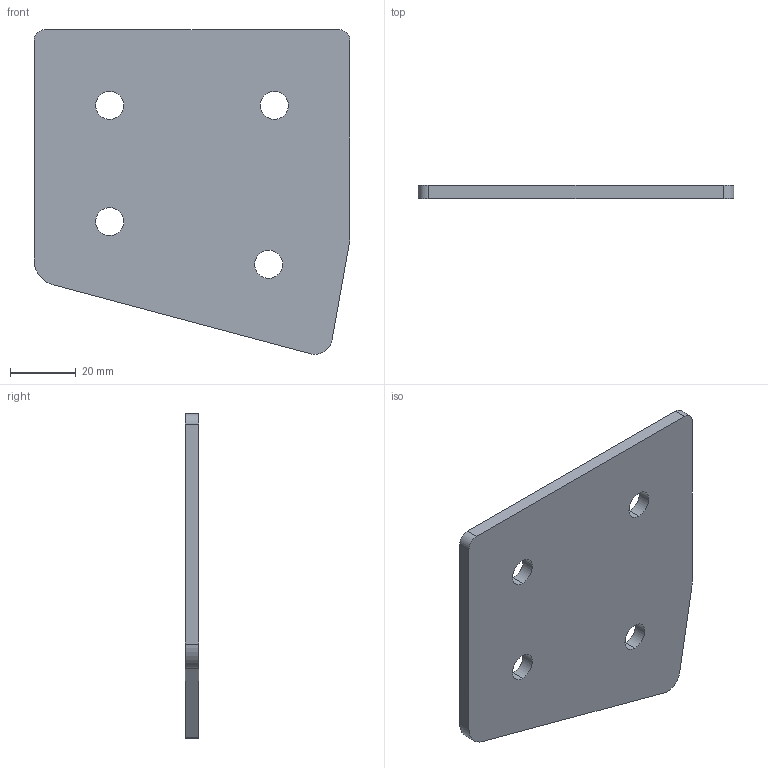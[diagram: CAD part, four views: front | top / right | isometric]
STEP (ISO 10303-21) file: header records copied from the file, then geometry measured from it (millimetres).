
FILE_DESCRIPTION (( 'STEP AP214' ), '1' );
FILE_NAME ('Ï-4-óãîë 15-50.STEP', '2017-08-16T05:31:11', ( '' ), ( '' ), 'SwSTEP 2.0', 'SolidWorks 2014', '' );
FILE_SCHEMA (( 'AUTOMOTIVE_DESIGN' ));
Length unit declared in the file: millimetre
Products named in the file (2): Ï-4-óãîë 15-50
Bounding box: 96 x 4 x 98.64 mm (x, y, z)
Volume: 32637.8 mm3; surface area: 18177.5 mm2
Topology: 1 solids, 1 shells, 20 faces, 54 edges, 36 vertices
Faces by surface type: cylinder 13, plane 7
Entity records: 929 total; most frequent: DIRECTION 124, CARTESIAN_POINT 112, ORIENTED_EDGE 108, EDGE_CURVE 54, AXIS2_PLACEMENT_3D 48, VERTEX_POINT 36, EDGE_LOOP 28, VECTOR 28
